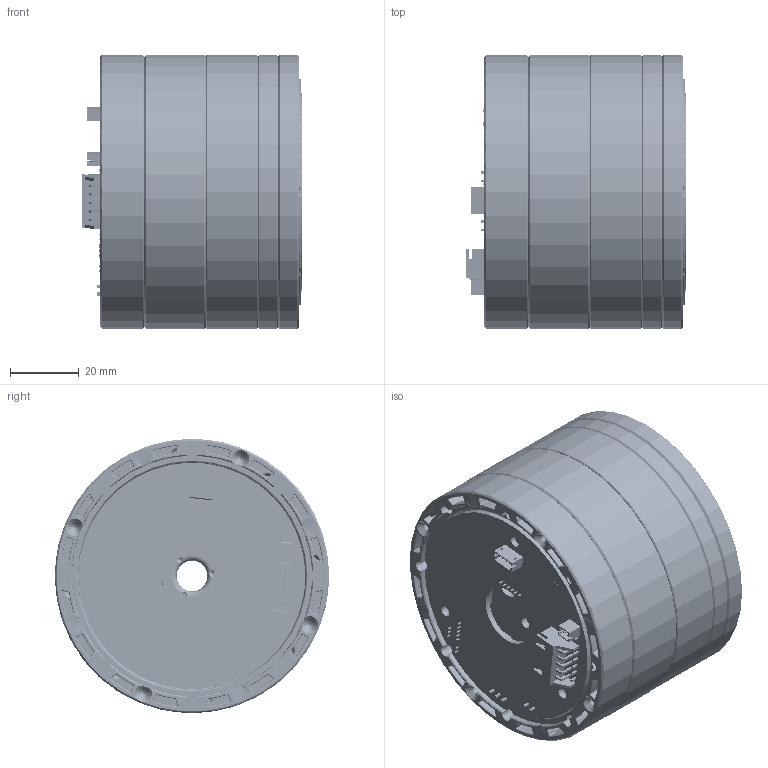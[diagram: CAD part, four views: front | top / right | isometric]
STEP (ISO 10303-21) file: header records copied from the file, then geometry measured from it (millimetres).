
FILE_DESCRIPTION(/* description */ (''),/* implementation_level */ '2;1');
FILE_NAME(/* name */ 'C:\Users\jvonderlaake\igus GmbH\T-DE-P-ReBel - ReBeL EW\12_CAD Promo\Rl-SE-80_Detail.stp',/* time_stamp */ '2021-03-04T09:00:59+01:00',/* author */ ('jhellwig'),/* organization */ (''),/* preprocessor_version */ 'ST-DEVELOPER v18.1',/* originating_system */ 'Autodesk Inventor 2020',/* authorisation */ '');
FILE_SCHEMA (('AUTOMOTIVE_DESIGN { 1 0 10303 214 3 1 1 }'));
Length unit declared in the file: millimetre
Products named in the file (26): D00243594.iam; D00080110.ipt; D00287261.ipt; D00292173.ipt; D00057269.ipt; D00080117.ipt; D00080125.ipt; D00222242.ipt; D00246304.ipt; D00287258.ipt; D00289927.ipt; D00288946.ipt; D00289914.ipt; D00222247.iam; D00222255; D00222256.ipt; D00289837.ipt; D00289871.ipt; D00291098.ipt; D00275388.ipt; D00222269.ipt; *; NOR-10730; D00275390.ipt; D00273675.ipt; D00292453
Assembly tree (77 placements, depth 3):
  D00243594.iam
    D00080110.ipt
    D00080117.ipt  x2
    D00287261.ipt
    D00292173.ipt  x2
    D00057269.ipt
    D00080125.ipt
    D00222242.ipt
    D00246304.ipt
    D00287258.ipt
    D00289927.ipt
    D00288946.ipt
    D00289914.ipt
    D00222247.iam
      D00222255  x22
      D00222256.ipt  x12
    D00289837.ipt
    D00289871.ipt
    D00291098.ipt
    D00275388.ipt
    D00222269.ipt
    *  x6
    NOR-10730  x6
    D00275390.ipt
    D00273675.ipt  x2
    D00292453  x8
Bounding box: 64.27 x 80 x 80 mm (x, y, z)
Volume: 166557 mm3; surface area: 199388.7 mm2
Topology: 278 solids, 280 shells, 20252 faces, 55933 edges, 36360 vertices
Faces by surface type: plane 8538, cylinder 8458, bspline 1677, torus 733, cone 620, sphere 226
Full cylindrical faces by diameter (mm): 0.4 x3, 0.5 x71, 0.68 x2, 0.7 x35, 0.8 x1, 0.87 x3, 0.991 x3, 1 x4, 1.194 x4, 1.3 x8, 1.5 x1, 2 x17, 2.459 x23, 3 x14, 3.2 x35, 3.3 x15, 3.4 x3, 5 x14, 5.1 x8, 5.5 x8, 5.54 x6, 6 x16, 7 x7, 8 x2, 9 x1, 12 x4, 13 x2, 14.88 x4, 15 x3, 18 x2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
Entity records: 526600 total; most frequent: CARTESIAN_POINT 141994, ORIENTED_EDGE 80426, DIRECTION 77182, EDGE_CURVE 40216, AXIS2_PLACEMENT_3D 26666, VERTEX_POINT 26192, LINE 23850, VECTOR 23850
